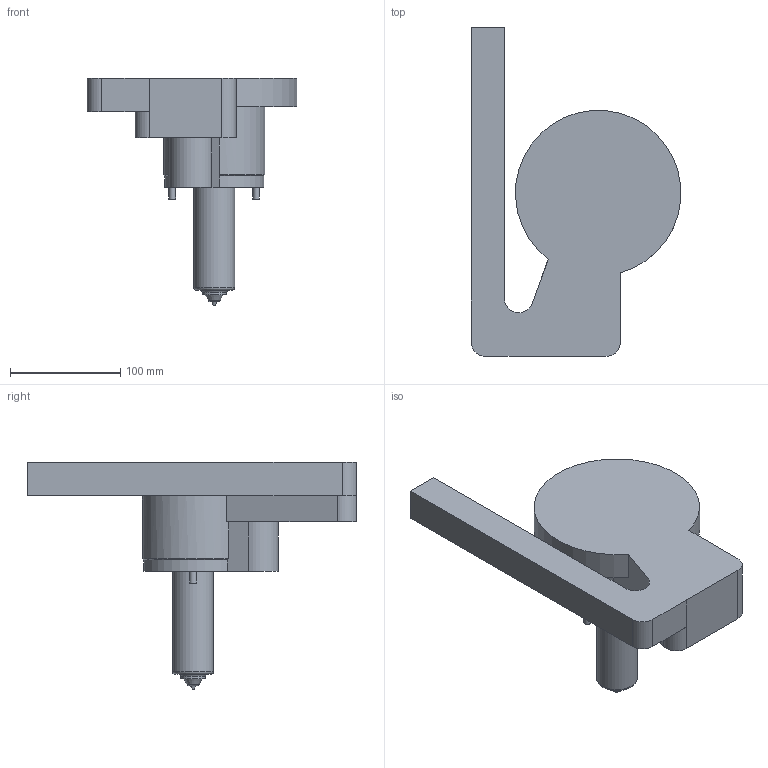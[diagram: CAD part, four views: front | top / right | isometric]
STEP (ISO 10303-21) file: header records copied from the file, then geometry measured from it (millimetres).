
FILE_DESCRIPTION( ( 'STEP AP214' ), '1' );
FILE_NAME( '//Gabi/d on gabi/PROIECTE_YUDO_2009/PROIECTE YUDO 3D/SAS/YUEU09-SAS22VC180_2_tapper/YUEU09-SAS22VC180_cutout.step', '2009-06-02T09:00:16', ( ' ' ), ( ' ' ), 'XStep 1.0', ' ', ' ' );
FILE_SCHEMA( ( 'automotive_design' ) );
Length unit declared in the file: millimetre
Products named in the file (1): 1
Bounding box: 189.74 x 298 x 205.8 mm (x, y, z)
Volume: 1778890.3 mm3; surface area: 144262.3 mm2
Topology: 1 solids, 1 shells, 41 faces, 98 edges, 66 vertices
Faces by surface type: plane 21, cylinder 14, cone 4, torus 2
Full cylindrical faces by diameter (mm): 4.5 x1, 6 x2, 17 x1, 22 x1, 37 x1
Entity records: 1432 total; most frequent: DIRECTION 198, CARTESIAN_POINT 187, ORIENTED_EDGE 160, EDGE_CURVE 80, AXIS2_PLACEMENT_3D 78, EDGE_LOOP 59, VERTEX_POINT 59, FACE_OUTER_BOUND 49
